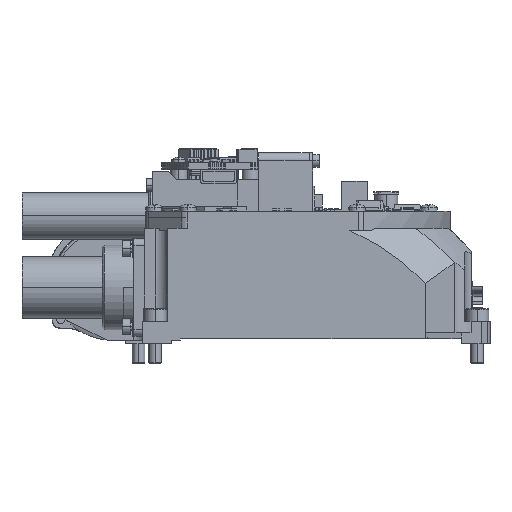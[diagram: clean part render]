
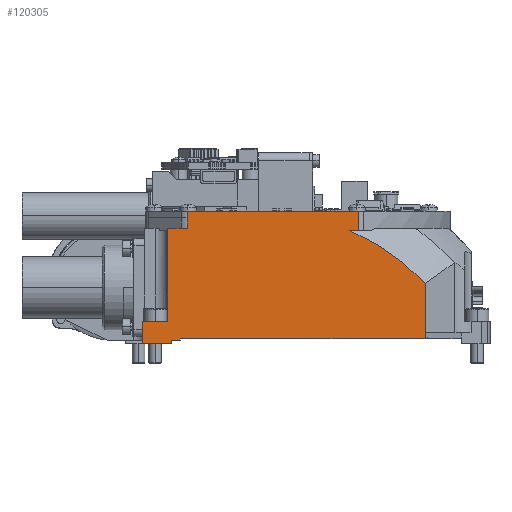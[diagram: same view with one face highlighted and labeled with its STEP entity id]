
A CAD part, left-side view. The second image highlights one B-rep face of the part: STEP entity #120305.
In plain terms, the highlighted planar face has unit normal (-1, 0, 0).
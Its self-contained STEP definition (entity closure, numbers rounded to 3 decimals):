
#12373=DIRECTION('',(0.,-1.,0.));
#12374=VECTOR('',#12373,0.172);
#12375=CARTESIAN_POINT('',(-72.2,47.872,18.1));
#12376=LINE('',#12375,#12374);
#12377=DIRECTION('',(0.,-1.,0.));
#12378=VECTOR('',#12377,40.311);
#12379=CARTESIAN_POINT('',(-72.2,47.7,18.1));
#12380=LINE('',#12379,#12378);
#12381=DIRECTION('',(0.,0.,1.));
#12382=VECTOR('',#12381,4.6);
#12383=CARTESIAN_POINT('',(-72.2,7.389,13.5));
#12384=LINE('',#12383,#12382);
#12385=CARTESIAN_POINT('',(-72.2,32.,-37.8));
#12386=DIRECTION('',(-1.,0.,0.));
#12387=DIRECTION('',(0.,-0.722,0.692));
#12388=AXIS2_PLACEMENT_3D('',#12385,#12386,#12387);
#12390=DIRECTION('',(0.,0.,-1.));
#12391=VECTOR('',#12390,11.671);
#12392=CARTESIAN_POINT('',(-72.2,-8.5,
0.971));
#12393=LINE('',#12392,#12391);
#12394=DIRECTION('',(0.,0.,-1.));
#12395=VECTOR('',#12394,1.5);
#12396=CARTESIAN_POINT('',(-72.2,-8.5,-10.7));
#12397=LINE('',#12396,#12395);
#12398=DIRECTION('',(0.,0.,1.));
#12399=VECTOR('',#12398,0.3);
#12400=CARTESIAN_POINT('',(-72.2,49.5,-12.5));
#12401=LINE('',#12400,#12399);
#12402=DIRECTION('',(0.,1.,0.));
#12403=VECTOR('',#12402,2.);
#12404=CARTESIAN_POINT('',(-72.2,49.5,-12.5));
#12405=LINE('',#12404,#12403);
#12406=DIRECTION('',(0.,0.,-1.));
#12407=VECTOR('',#12406,0.8);
#12408=CARTESIAN_POINT('',(-72.2,51.5,-12.5));
#12409=LINE('',#12408,#12407);
#12410=DIRECTION('',(0.,0.,1.));
#12411=VECTOR('',#12410,5.3);
#12412=CARTESIAN_POINT('',(-72.2,58.5,-13.3));
#12413=LINE('',#12412,#12411);
#12414=DIRECTION('',(0.,-1.,0.));
#12415=VECTOR('',#12414,6.);
#12416=CARTESIAN_POINT('',(-72.2,58.5,-8.));
#12417=LINE('',#12416,#12415);
#12418=DIRECTION('',(0.,0.,-1.));
#12419=VECTOR('',#12418,22.);
#12420=CARTESIAN_POINT('',(-72.2,52.5,14.));
#12421=LINE('',#12420,#12419);
#12422=DIRECTION('',(0.,0.,1.));
#12423=VECTOR('',#12422,2.5);
#12424=CARTESIAN_POINT('',(-72.2,47.872,14.));
#12425=LINE('',#12424,#12423);
#12810=DIRECTION('',(0.,1.,0.));
#12811=VECTOR('',#12810,58.);
#12812=CARTESIAN_POINT('',(-72.2,-8.5,-12.2));
#12813=LINE('',#12812,#12811);
#13785=DIRECTION('',(0.,1.,0.));
#13786=VECTOR('',#13785,7.);
#13787=CARTESIAN_POINT('',(-72.2,51.5,-13.3));
#13788=LINE('',#13787,#13786);
#14007=CARTESIAN_POINT('',(-72.2,-8.5,
0.971));
#14021=CARTESIAN_POINT('',(-72.2,9.378,13.5));
#16526=DIRECTION('',(0.,-1.,0.));
#16527=VECTOR('',#16526,1.989);
#16528=CARTESIAN_POINT('',(-72.2,9.378,13.5));
#16529=LINE('',#16528,#16527);
#19022=CARTESIAN_POINT('',(-72.2,47.872,16.5));
#19023=CARTESIAN_POINT('',(-72.2,47.872,
16.678));
#19024=CARTESIAN_POINT('',(-72.2,47.872,
17.033));
#19025=CARTESIAN_POINT('',(-72.2,47.872,
17.567));
#19026=CARTESIAN_POINT('',(-72.2,47.872,17.922));
#19027=CARTESIAN_POINT('',(-72.2,47.872,18.1));
#19047=CARTESIAN_POINT('',(-72.2,47.872,16.5));
#19048=CARTESIAN_POINT('',(-72.2,47.872,16.5));
#19049=CARTESIAN_POINT('',(-72.2,47.872,16.5));
#19050=CARTESIAN_POINT('',(-72.2,47.872,16.5));
#19051=CARTESIAN_POINT('',(-72.2,47.872,16.5));
#19062=DIRECTION('',(0.,1.,0.));
#19063=VECTOR('',#19062,4.628);
#19064=CARTESIAN_POINT('',(-72.2,47.872,14.));
#19065=LINE('',#19064,#19063);
#94709=CARTESIAN_POINT('',(-72.2,52.5,14.));
#94710=CARTESIAN_POINT('',(-72.2,52.5,-8.));
#94711=VERTEX_POINT('',#94709);
#94712=VERTEX_POINT('',#94710);
#94803=VERTEX_POINT('',#14007);
#94820=CARTESIAN_POINT('',(-72.2,58.5,-8.));
#94822=VERTEX_POINT('',#94820);
#94824=CARTESIAN_POINT('',(-72.2,49.5,-12.5));
#94825=VERTEX_POINT('',#94824);
#94925=CARTESIAN_POINT('',(-72.2,58.5,-13.3));
#94927=VERTEX_POINT('',#94925);
#94931=CARTESIAN_POINT('',(-72.2,51.5,-13.3));
#94932=VERTEX_POINT('',#94931);
#94945=CARTESIAN_POINT('',(-72.2,51.5,-12.5));
#94946=VERTEX_POINT('',#94945);
#96492=CARTESIAN_POINT('',(-72.2,-8.5,-12.2));
#96493=VERTEX_POINT('',#96492);
#96498=CARTESIAN_POINT('',(-72.2,-8.5,-10.7));
#96500=VERTEX_POINT('',#96498);
#96522=CARTESIAN_POINT('',(-72.2,49.5,-12.2));
#96523=VERTEX_POINT('',#96522);
#96554=CARTESIAN_POINT('',(-72.2,7.389,18.1));
#96556=VERTEX_POINT('',#96554);
#96577=CARTESIAN_POINT('',(-72.2,7.389,13.5));
#96579=VERTEX_POINT('',#96577);
#96636=CARTESIAN_POINT('',(-72.2,47.872,14.));
#96637=VERTEX_POINT('',#96636);
#96669=VERTEX_POINT('',#14021);
#102602=CARTESIAN_POINT('',(-72.2,47.872,16.5));
#102603=VERTEX_POINT('',#102602);
#102604=VERTEX_POINT('',#19051);
#102619=VERTEX_POINT('',#19027);
#107938=CARTESIAN_POINT('',(-72.2,47.7,18.1));
#107940=VERTEX_POINT('',#107938);
#120263=CARTESIAN_POINT('',(-72.2,-14.5,14.));
#120264=DIRECTION('',(-1.,0.,0.));
#120265=DIRECTION('',(0.,1.,0.));
#120266=AXIS2_PLACEMENT_3D('',#120263,#120264,#120265);
#120267=PLANE('',#120266);
#120268=ORIENTED_EDGE('',*,*,#113593,.T.);
#120269=ORIENTED_EDGE('',*,*,#113587,.T.);
#120271=ORIENTED_EDGE('',*,*,#120270,.F.);
#120273=ORIENTED_EDGE('',*,*,#120272,.F.);
#120275=ORIENTED_EDGE('',*,*,#120274,.F.);
#120277=ORIENTED_EDGE('',*,*,#120276,.T.);
#120279=ORIENTED_EDGE('',*,*,#120278,.T.);
#120281=ORIENTED_EDGE('',*,*,#120280,.T.);
#120283=ORIENTED_EDGE('',*,*,#120282,.F.);
#120285=ORIENTED_EDGE('',*,*,#120284,.T.);
#120287=ORIENTED_EDGE('',*,*,#120286,.T.);
#120289=ORIENTED_EDGE('',*,*,#120288,.T.);
#120290=ORIENTED_EDGE('',*,*,#120246,.T.);
#120292=ORIENTED_EDGE('',*,*,#120291,.T.);
#120294=ORIENTED_EDGE('',*,*,#120293,.F.);
#120296=ORIENTED_EDGE('',*,*,#120295,.F.);
#120298=ORIENTED_EDGE('',*,*,#120297,.T.);
#120300=ORIENTED_EDGE('',*,*,#120299,.F.);
#120302=ORIENTED_EDGE('',*,*,#120301,.T.);
#120303=EDGE_LOOP('',(#120268,#120269,#120271,#120273,#120275,#120277,#120279,
#120281,#120283,#120285,#120287,#120289,#120290,#120292,#120294,#120296,#120298,
#120300,#120302));
#120304=FACE_OUTER_BOUND('',#120303,.F.);
#120305=ADVANCED_FACE('',(#120304),#120267,.T.);
#12389=CIRCLE('',#12388,56.067);
#19028=B_SPLINE_CURVE_WITH_KNOTS('',3,(#19022,#19023,#19024,#19025,#19026,
#19027),.UNSPECIFIED.,.F.,.F.,(4,1,1,4),(0.,0.333,
0.667,1.),.UNSPECIFIED.);
#19052=B_SPLINE_CURVE_WITH_KNOTS('',3,(#19047,#19048,#19049,#19050,#19051),
.UNSPECIFIED.,.F.,.F.,(4,1,4),(0.,0.5,1.),.UNSPECIFIED.);
#113587=EDGE_CURVE('',#107940,#96556,#12380,.T.);
#113593=EDGE_CURVE('',#102619,#107940,#12376,.T.);
#120246=EDGE_CURVE('',#94927,#94822,#12413,.T.);
#120270=EDGE_CURVE('',#96579,#96556,#12384,.T.);
#120272=EDGE_CURVE('',#96669,#96579,#16529,.T.);
#120274=EDGE_CURVE('',#94803,#96669,#12389,.T.);
#120276=EDGE_CURVE('',#94803,#96500,#12393,.T.);
#120278=EDGE_CURVE('',#96500,#96493,#12397,.T.);
#120280=EDGE_CURVE('',#96493,#96523,#12813,.T.);
#120282=EDGE_CURVE('',#94825,#96523,#12401,.T.);
#120284=EDGE_CURVE('',#94825,#94946,#12405,.T.);
#120286=EDGE_CURVE('',#94946,#94932,#12409,.T.);
#120288=EDGE_CURVE('',#94932,#94927,#13788,.T.);
#120291=EDGE_CURVE('',#94822,#94712,#12417,.T.);
#120293=EDGE_CURVE('',#94711,#94712,#12421,.T.);
#120295=EDGE_CURVE('',#96637,#94711,#19065,.T.);
#120297=EDGE_CURVE('',#96637,#102604,#12425,.T.);
#120299=EDGE_CURVE('',#102603,#102604,#19052,.T.);
#120301=EDGE_CURVE('',#102603,#102619,#19028,.T.);
